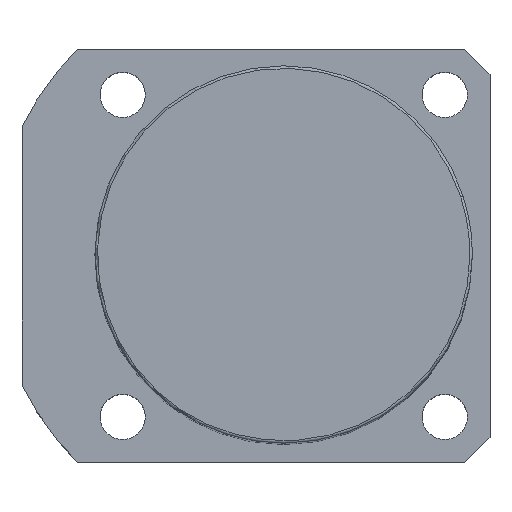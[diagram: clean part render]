
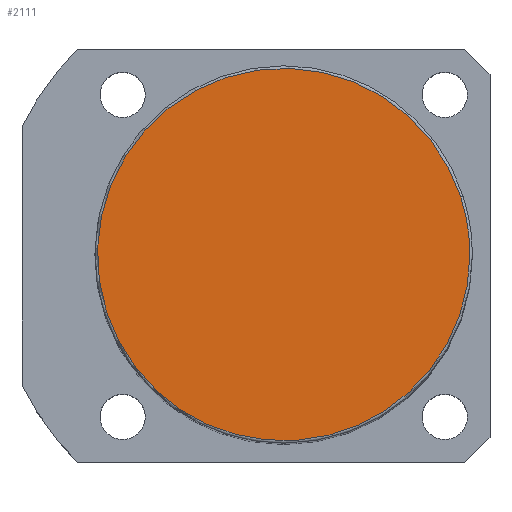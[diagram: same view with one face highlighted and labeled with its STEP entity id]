
A CAD part, top view. The second image highlights one B-rep face of the part: STEP entity #2111.
In plain terms, the highlighted planar face has unit normal (0, 0, 1).
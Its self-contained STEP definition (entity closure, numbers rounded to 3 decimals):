
#2077=CARTESIAN_POINT('',(37.0,0.0,168.0));
#2078=VERTEX_POINT('',#2077);
#2079=CARTESIAN_POINT('',(35.189,11.434,168.0));
#2080=VERTEX_POINT('',#2079);
#2081=CARTESIAN_POINT('',(0.0,0.0,168.0));
#2082=DIRECTION('',(0.0,0.0,1.0));
#2083=DIRECTION('',(1.0,0.0,0.0));
#2084=AXIS2_PLACEMENT_3D('',#2081,#2082,#2083);
#2085=CIRCLE('',#2084,37.0);
#2086=EDGE_CURVE('no 1962',#2078,#2080,#2085,.T.);
#2087=ORIENTED_EDGE('',*,*,#2086,.T.);
#2088=CARTESIAN_POINT('',(-35.189,-11.434,168.0));
#2089=VERTEX_POINT('',#2088);
#2090=CARTESIAN_POINT('',(0.0,0.0,168.0));
#2091=DIRECTION('',(0.0,0.0,1.0));
#2092=DIRECTION('',(1.0,0.0,0.0));
#2093=AXIS2_PLACEMENT_3D('',#2090,#2091,#2092);
#2094=CIRCLE('',#2093,37.0);
#2095=EDGE_CURVE('no 1968',#2080,#2089,#2094,.T.);
#2096=ORIENTED_EDGE('',*,*,#2095,.T.);
#2097=CARTESIAN_POINT('',(0.0,0.0,168.0));
#2098=DIRECTION('',(0.0,0.0,1.0));
#2099=DIRECTION('',(1.0,0.0,0.0));
#2100=AXIS2_PLACEMENT_3D('',#2097,#2098,#2099);
#2101=CIRCLE('',#2100,37.0);
#2102=EDGE_CURVE('no 1972',#2089,#2078,#2101,.T.);
#2103=ORIENTED_EDGE('',*,*,#2102,.T.);
#2104=EDGE_LOOP('',(#2087,#2096,#2103));
#2105=FACE_OUTER_BOUND('',#2104,.T.);
#2106=CARTESIAN_POINT('',(0.0,0.0,168.0));
#2107=DIRECTION('',(0.0,0.0,1.0));
#2108=DIRECTION('',(1.0,0.0,0.0));
#2109=AXIS2_PLACEMENT_3D('',#2106,#2107,#2108);
#2110=PLANE('',#2109);
#2111=ADVANCED_FACE('no 1953',(#2105),#2110,.T.);
